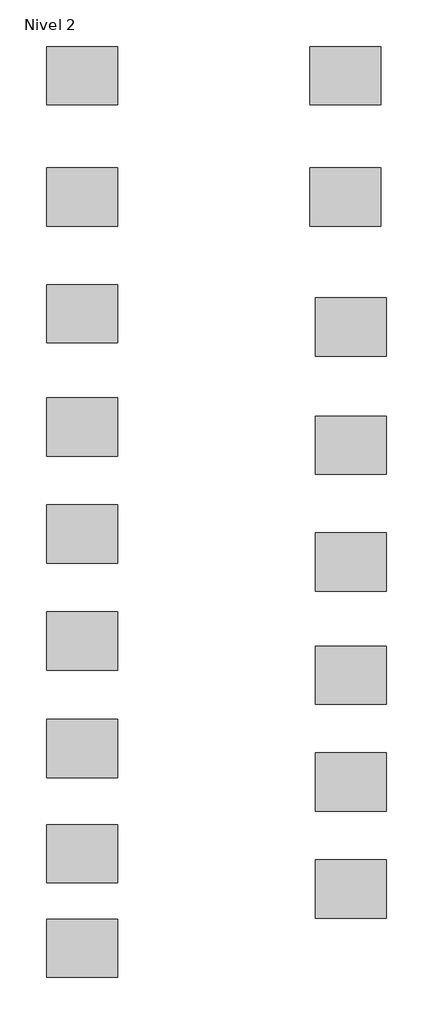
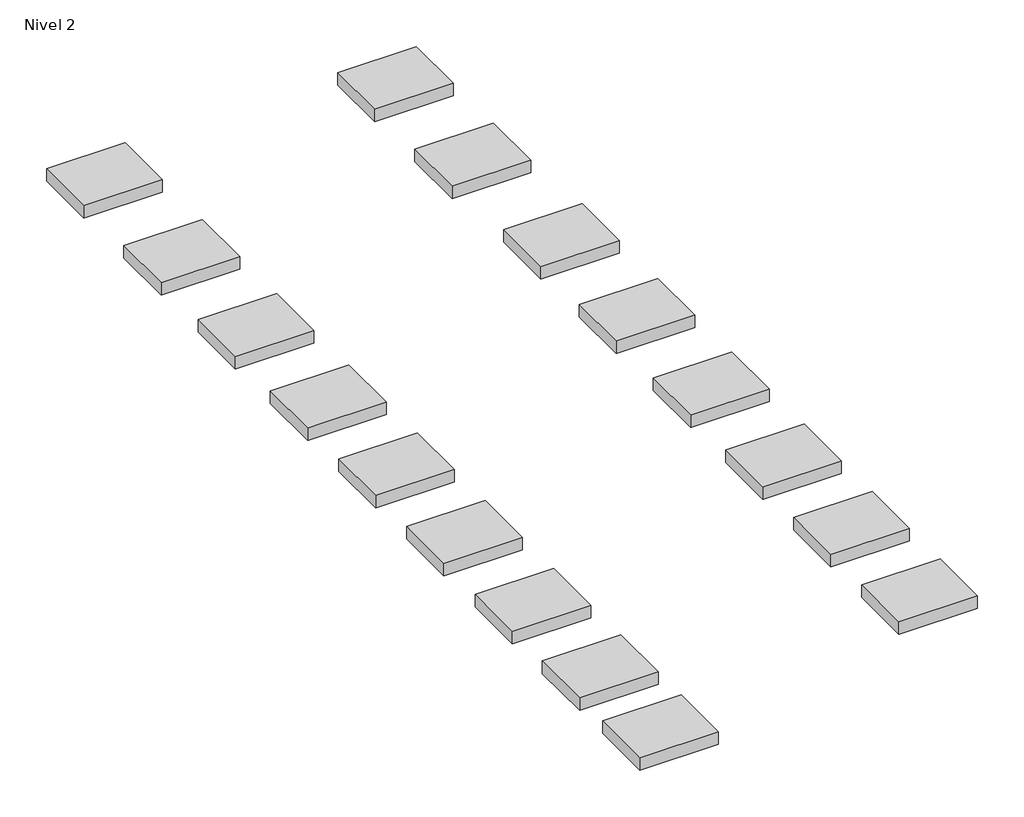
# One storey: 17 furniture elements.
"""IFC4 building model written with IfcOpenShell, lengths in millimetres."""

from ifc_helpers import new_model, si_unit, origin, place, context, project, spatial, transform, mapped, element, save
from components import furniture_fc90d0a3

model = new_model("IFC4")

# Units and contexts
model_context = context("Model", 3, world=origin())
ifc_project = project(units=[si_unit("LENGTHUNIT", "METRE", prefix="MILLI")], contexts=[model_context])

# Site, building, storey
site = spatial("IfcSite", under=ifc_project)
building = spatial("IfcBuilding", under=site)
storey = spatial("IfcBuildingStorey", under=building, Name="Nivel 2", Elevation=4000.0)

# Furniture
placement = place(None, origin())
furniture_shape = furniture_fc90d0a3(model_context)
element("IfcFurniture", 1, ObjectType="Amaral : Amaral 10", at=placement, inside=storey, context=model_context, shape_type="MappedRepresentation", body=[
    mapped(furniture_shape, transform((-9674.6867993, 10060.919512, 4000.0), x_axis=(1.0, 0.0, 0.0), y_axis=(0.0, 1.0, 0.0), z_axis=(0.0, 0.0, 1.0))),
])
element("IfcFurniture", 2, ObjectType="Amaral : Amaral 51", at=placement, inside=storey, context=model_context, shape_type="MappedRepresentation", body=[
    mapped(furniture_shape, transform((-9674.6867993, 7528.1002461, 4000.0), x_axis=(1.0, 0.0, 0.0), y_axis=(0.0, 1.0, 0.0), z_axis=(0.0, 0.0, 1.0))),
])
element("IfcFurniture", 3, ObjectType="Amaral : Amaral 56", at=placement, inside=storey, context=model_context, shape_type="MappedRepresentation", body=[
    mapped(furniture_shape, transform((-9674.6867993, 5096.5937509, 4000.0), x_axis=(1.0, 0.0, 0.0), y_axis=(0.0, 1.0, 0.0), z_axis=(0.0, 0.0, 1.0))),
])
element("IfcFurniture", 4, ObjectType="Amaral : Amaral 60", at=placement, inside=storey, context=model_context, shape_type="MappedRepresentation", body=[
    mapped(furniture_shape, transform((-9674.6867993, 2732.6291028, 4000.0), x_axis=(1.0, 0.0, 0.0), y_axis=(0.0, 1.0, 0.0), z_axis=(0.0, 0.0, 1.0))),
])
element("IfcFurniture", 5, ObjectType="Amaral : Amaral 90", at=placement, inside=storey, context=model_context, shape_type="MappedRepresentation", body=[
    mapped(furniture_shape, transform((-9674.6867993, 503.7481489, 4000.0), x_axis=(1.0, 0.0, 0.0), y_axis=(0.0, 1.0, 0.0), z_axis=(0.0, 0.0, 1.0))),
])
element("IfcFurniture", 6, ObjectType="Amaral : Amaral 271", at=placement, inside=storey, context=model_context, shape_type="MappedRepresentation", body=[
    mapped(furniture_shape, transform((-9674.6867993, -1725.1328051, 4000.0), x_axis=(1.0, 0.0, 0.0), y_axis=(0.0, 1.0, 0.0), z_axis=(0.0, 0.0, 1.0))),
])
element("IfcFurniture", 7, ObjectType="Amaral : Amaral 300", at=placement, inside=storey, context=model_context, shape_type="MappedRepresentation", body=[
    mapped(furniture_shape, transform((-9674.6867993, -3967.3708972, 4000.0), x_axis=(1.0, 0.0, 0.0), y_axis=(0.0, 1.0, 0.0), z_axis=(0.0, 0.0, 1.0))),
])
element("IfcFurniture", 8, ObjectType="Amaral : Amaral 305", at=placement, inside=storey, context=model_context, shape_type="MappedRepresentation", body=[
    mapped(furniture_shape, transform((-9674.6867993, -6167.3708972, 4000.0), x_axis=(1.0, 0.0, 0.0), y_axis=(0.0, 1.0, 0.0), z_axis=(0.0, 0.0, 1.0))),
])
element("IfcFurniture", 9, ObjectType="Amaral : Amaral 314", at=placement, inside=storey, context=model_context, shape_type="MappedRepresentation", body=[
    mapped(furniture_shape, transform((-4174.6867993, 10060.919512, 4000.0), x_axis=(1.0, 0.0, 0.0), y_axis=(0.0, 1.0, 0.0), z_axis=(0.0, 0.0, 1.0))),
])
element("IfcFurniture", 10, ObjectType="Amaral : Amaral 324", at=placement, inside=storey, context=model_context, shape_type="MappedRepresentation", body=[
    mapped(furniture_shape, transform((-4174.6867993, 7528.1002461, 4000.0), x_axis=(1.0, 0.0, 0.0), y_axis=(0.0, 1.0, 0.0), z_axis=(0.0, 0.0, 1.0))),
])
element("IfcFurniture", 11, ObjectType="Amaral : Amaral 347", at=placement, inside=storey, context=model_context, shape_type="MappedRepresentation", body=[
    mapped(furniture_shape, transform((-4061.9044644, 4818.1349428, 4000.0), x_axis=(1.0, 0.0, 0.0), y_axis=(0.0, 1.0, 0.0), z_axis=(0.0, 0.0, 1.0))),
])
element("IfcFurniture", 12, ObjectType="Amaral : Amaral 348", at=placement, inside=storey, context=model_context, shape_type="MappedRepresentation", body=[
    mapped(furniture_shape, transform((-4061.9044644, 2352.857524, 4000.0), x_axis=(1.0, 0.0, 0.0), y_axis=(0.0, 1.0, 0.0), z_axis=(0.0, 0.0, 1.0))),
])
element("IfcFurniture", 13, ObjectType="Amaral : Amaral 349", at=placement, inside=storey, context=model_context, shape_type="MappedRepresentation", body=[
    mapped(furniture_shape, transform((-4061.9044644, -78.6489712, 4000.0), x_axis=(1.0, 0.0, 0.0), y_axis=(0.0, 1.0, 0.0), z_axis=(0.0, 0.0, 1.0))),
])
element("IfcFurniture", 14, ObjectType="Amaral : Amaral 395", at=placement, inside=storey, context=model_context, shape_type="MappedRepresentation", body=[
    mapped(furniture_shape, transform((-4061.9044644, -2442.6136193, 4000.0), x_axis=(1.0, 0.0, 0.0), y_axis=(0.0, 1.0, 0.0), z_axis=(0.0, 0.0, 1.0))),
])
element("IfcFurniture", 15, ObjectType="Amaral : Amaral 407", at=placement, inside=storey, context=model_context, shape_type="MappedRepresentation", body=[
    mapped(furniture_shape, transform((-4061.9044644, -4671.4945733, 4000.0), x_axis=(1.0, 0.0, 0.0), y_axis=(0.0, 1.0, 0.0), z_axis=(0.0, 0.0, 1.0))),
])
element("IfcFurniture", 16, ObjectType="Amaral : Amaral 710", at=placement, inside=storey, context=model_context, shape_type="MappedRepresentation", body=[
    mapped(furniture_shape, transform((-4061.9044644, -6900.3755272, 4000.0), x_axis=(1.0, 0.0, 0.0), y_axis=(0.0, 1.0, 0.0), z_axis=(0.0, 0.0, 1.0))),
])
element("IfcFurniture", 17, ObjectType="Amaral : Amaral 790", at=placement, inside=storey, context=model_context, shape_type="MappedRepresentation", body=[
    mapped(furniture_shape, transform((-9674.6867993, -8137.3517914, 4000.0), x_axis=(1.0, 0.0, 0.0), y_axis=(0.0, 1.0, 0.0), z_axis=(0.0, 0.0, 1.0))),
])

save(model, "model.ifc")
